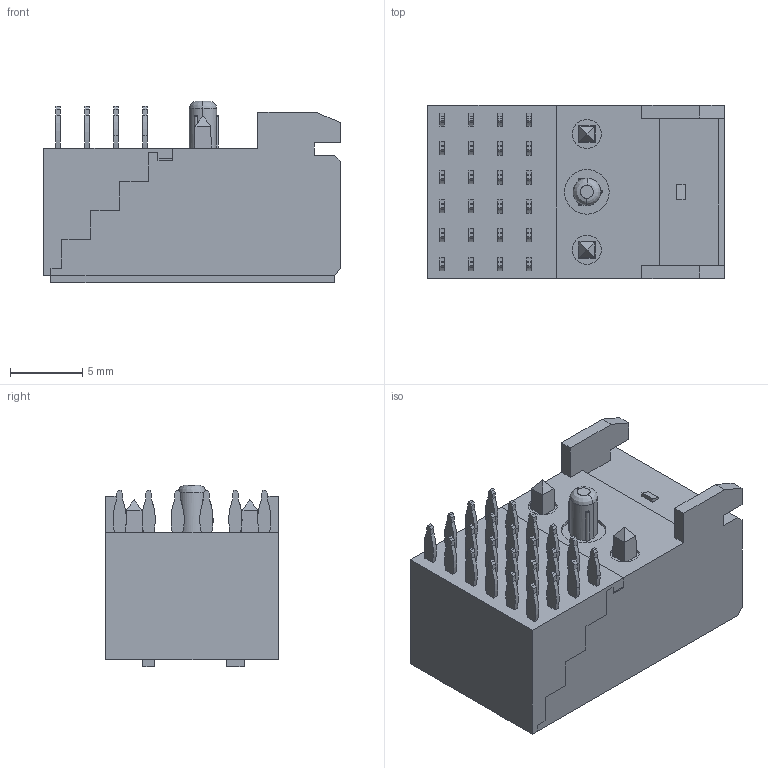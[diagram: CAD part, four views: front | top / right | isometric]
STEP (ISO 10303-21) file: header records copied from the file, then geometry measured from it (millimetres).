
FILE_DESCRIPTION (( 'STEP AP214' ), '1' );
FILE_NAME ('9111-42241C10PU.STEP', '2017-12-14T03:09:40', ( 'ADMIN' ), ( '' ), 'SwSTEP 2.0', 'SolidWorks 2011', '' );
FILE_SCHEMA (( 'AUTOMOTIVE_DESIGN' ));
Length unit declared in the file: millimetre
Products named in the file (7): 9111-4413B-3; 9111-4412B-2; 9111-4411B-1; 9111-4224Y; 9111-4224Y3; 9111-42241C10PU; 9111-4414B-4
Assembly tree (10 placements, depth 2):
  9111-42241C10PU
    9111-4224Y
    9111-4224Y3
    9111-4411B-1  x2
    9111-4413B-3  x2
    9111-4412B-2  x2
    9111-4414B-4  x2
Bounding box: 20.5 x 11.95 x 12.55 mm (x, y, z)
Volume: 2129.9 mm3; surface area: 1834.7 mm2
Topology: 26 solids, 26 shells, 578 faces, 1399 edges, 904 vertices
Faces by surface type: plane 499, cylinder 74, bspline 5
Entity records: 14903 total; most frequent: CARTESIAN_POINT 2933, ORIENTED_EDGE 2186, DIRECTION 1986, EDGE_CURVE 1093, LINE 870, VECTOR 870, VERTEX_POINT 700, AXIS2_PLACEMENT_3D 558
